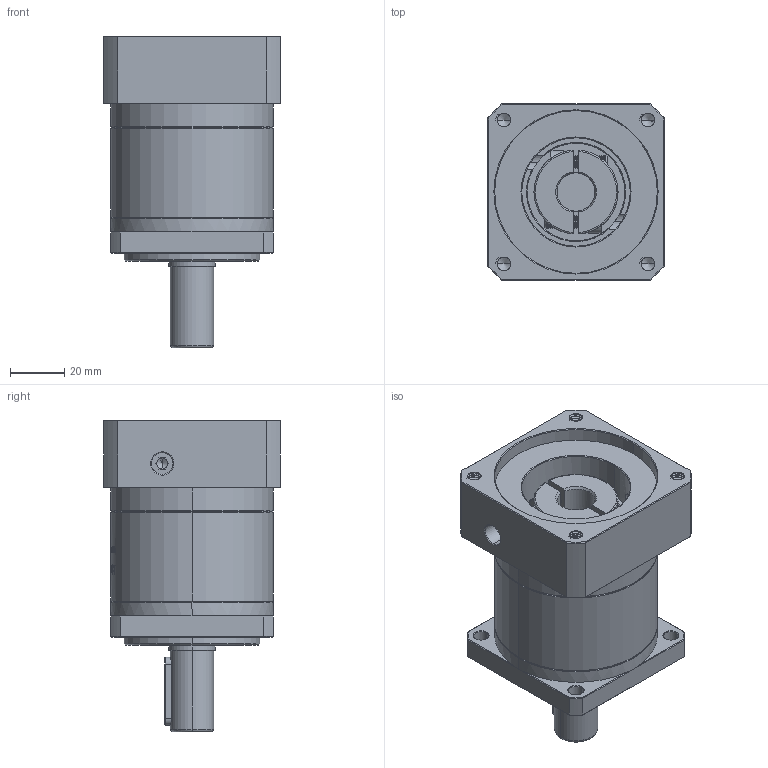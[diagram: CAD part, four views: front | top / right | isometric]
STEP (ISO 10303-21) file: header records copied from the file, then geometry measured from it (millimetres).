
FILE_DESCRIPTION (( 'STEP AP214' ), '1' );
FILE_NAME ('ZF060-D16-L1-P2-14-60-75-M6.step', '2023-08-16T04:26:13', ( '' ), ( '' ), 'SwSTEP 2.0', 'SolidWorks 2016', '' );
FILE_SCHEMA (( 'AUTOMOTIVE_DESIGN' ));
Length unit declared in the file: millimetre
Products named in the file (1): ZF060-D16-L1-P2-14-60-75-M6
Bounding box: 65 x 65 x 115 mm (x, y, z)
Volume: 234541.1 mm3; surface area: 47222.6 mm2
Topology: 6 solids, 6 shells, 1775 faces, 4796 edges, 3105 vertices
Faces by surface type: plane 799, cylinder 368, bspline 354, cone 236, torus 18
Entity records: 101696 total; most frequent: CARTESIAN_POINT 41857, ORIENTED_EDGE 9564, DIRECTION 6858, EDGE_CURVE 4782, VERTEX_POINT 3105, VECTOR 2432, LINE 2432, AXIS2_PLACEMENT_3D 2213
